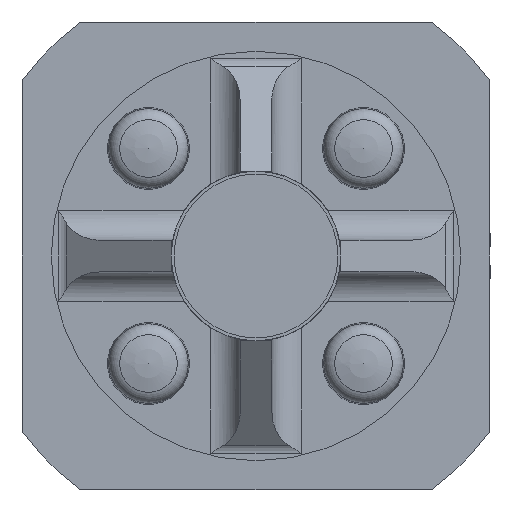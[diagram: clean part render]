
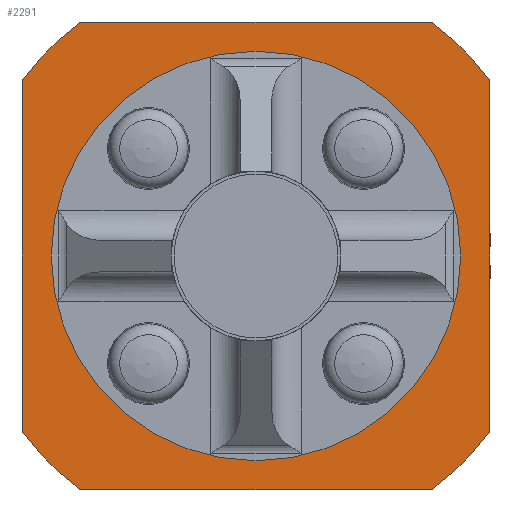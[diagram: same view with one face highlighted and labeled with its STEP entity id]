
A CAD part, front view. The second image highlights one B-rep face of the part: STEP entity #2291.
In plain terms, the highlighted planar face has unit normal (0, -1, 0).
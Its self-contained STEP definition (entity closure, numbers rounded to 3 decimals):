
#84=CIRCLE('',#2490,25.);
#87=CIRCLE('',#2495,25.);
#90=CIRCLE('',#2500,25.);
#93=CIRCLE('',#2505,25.);
#94=CIRCLE('',#2508,17.5);
#459=ORIENTED_EDGE('',*,*,#1023,.F.);
#460=ORIENTED_EDGE('',*,*,#998,.F.);
#461=ORIENTED_EDGE('',*,*,#1022,.F.);
#462=ORIENTED_EDGE('',*,*,#1019,.F.);
#463=ORIENTED_EDGE('',*,*,#1016,.F.);
#464=ORIENTED_EDGE('',*,*,#1012,.F.);
#465=ORIENTED_EDGE('',*,*,#1009,.F.);
#466=ORIENTED_EDGE('',*,*,#1005,.F.);
#467=ORIENTED_EDGE('',*,*,#1002,.F.);
#998=EDGE_CURVE('',#1266,#1267,#84,.T.);
#1002=EDGE_CURVE('',#1267,#1270,#1470,.T.);
#1005=EDGE_CURVE('',#1270,#1272,#87,.T.);
#1009=EDGE_CURVE('',#1272,#1275,#1474,.T.);
#1012=EDGE_CURVE('',#1275,#1277,#90,.T.);
#1016=EDGE_CURVE('',#1277,#1280,#1478,.T.);
#1019=EDGE_CURVE('',#1280,#1282,#93,.T.);
#1022=EDGE_CURVE('',#1282,#1266,#1482,.T.);
#1023=EDGE_CURVE('',#1283,#1283,#94,.F.);
#1266=VERTEX_POINT('',#3790);
#1267=VERTEX_POINT('',#3792);
#1270=VERTEX_POINT('',#3800);
#1272=VERTEX_POINT('',#3806);
#1275=VERTEX_POINT('',#3814);
#1277=VERTEX_POINT('',#3820);
#1280=VERTEX_POINT('',#3828);
#1282=VERTEX_POINT('',#3834);
#1283=VERTEX_POINT('',#3841);
#1470=LINE('',#3799,#1618);
#1474=LINE('',#3813,#1622);
#1478=LINE('',#3827,#1626);
#1482=LINE('',#3838,#1630);
#1618=VECTOR('',#2951,1000.);
#1622=VECTOR('',#2965,1000.);
#1626=VECTOR('',#2979,1000.);
#1630=VECTOR('',#2991,1000.);
#1723=EDGE_LOOP('',(#459));
#1724=EDGE_LOOP('',(#460,#461,#462,#463,#464,#465,#466,#467));
#1967=FACE_BOUND('',#1723,.T.);
#1968=FACE_BOUND('',#1724,.T.);
#2191=PLANE('',#2507);
#2291=ADVANCED_FACE('',(#1967,#1968),#2191,.F.);
#2490=AXIS2_PLACEMENT_3D('',#3791,#2943,#2944);
#2495=AXIS2_PLACEMENT_3D('',#3805,#2957,#2958);
#2500=AXIS2_PLACEMENT_3D('',#3819,#2971,#2972);
#2505=AXIS2_PLACEMENT_3D('',#3833,#2985,#2986);
#2507=AXIS2_PLACEMENT_3D('',#3839,#2992,#2993);
#2508=AXIS2_PLACEMENT_3D('',#3840,#2994,#2995);
#2943=DIRECTION('',(0.,1.,0.));
#2944=DIRECTION('',(1.,0.,0.));
#2951=DIRECTION('',(0.,0.,1.));
#2957=DIRECTION('',(0.,1.,0.));
#2958=DIRECTION('',(1.,0.,0.));
#2965=DIRECTION('',(1.,0.,0.));
#2971=DIRECTION('',(0.,1.,0.));
#2972=DIRECTION('',(1.,0.,0.));
#2979=DIRECTION('',(0.,0.,-1.));
#2985=DIRECTION('',(0.,1.,0.));
#2986=DIRECTION('',(1.,0.,0.));
#2991=DIRECTION('',(-1.,0.,0.));
#2992=DIRECTION('',(0.,1.,0.));
#2993=DIRECTION('',(0.,0.,1.));
#2994=DIRECTION('',(0.,1.,0.));
#2995=DIRECTION('',(0.,0.,1.));
#3790=CARTESIAN_POINT('',(-15.,-10.4,-20.));
#3791=CARTESIAN_POINT('',(0.,-10.4,0.));
#3792=CARTESIAN_POINT('',(-20.,-10.4,-15.));
#3799=CARTESIAN_POINT('',(-20.,-10.4,-15.));
#3800=CARTESIAN_POINT('',(-20.,-10.4,15.));
#3805=CARTESIAN_POINT('',(0.,-10.4,0.));
#3806=CARTESIAN_POINT('',(-15.,-10.4,20.));
#3813=CARTESIAN_POINT('',(-15.,-10.4,20.));
#3814=CARTESIAN_POINT('',(15.,-10.4,20.));
#3819=CARTESIAN_POINT('',(0.,-10.4,0.));
#3820=CARTESIAN_POINT('',(20.,-10.4,15.));
#3827=CARTESIAN_POINT('',(20.,-10.4,15.));
#3828=CARTESIAN_POINT('',(20.,-10.4,-15.));
#3833=CARTESIAN_POINT('',(0.,-10.4,0.));
#3834=CARTESIAN_POINT('',(15.,-10.4,-20.));
#3838=CARTESIAN_POINT('',(15.,-10.4,-20.));
#3839=CARTESIAN_POINT('',(0.,-10.4,0.));
#3840=CARTESIAN_POINT('',(0.,-10.4,0.));
#3841=CARTESIAN_POINT('',(0.,-10.4,17.5));
